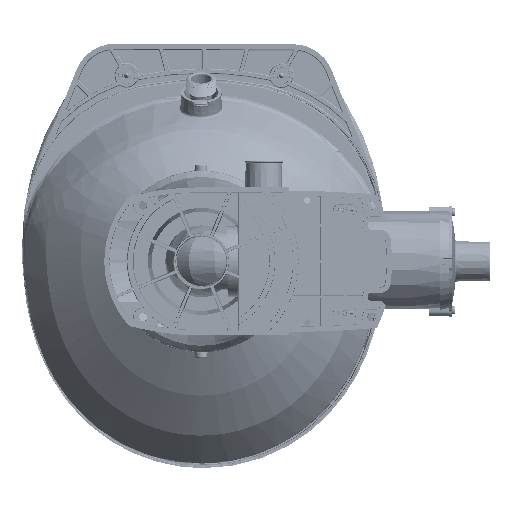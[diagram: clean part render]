
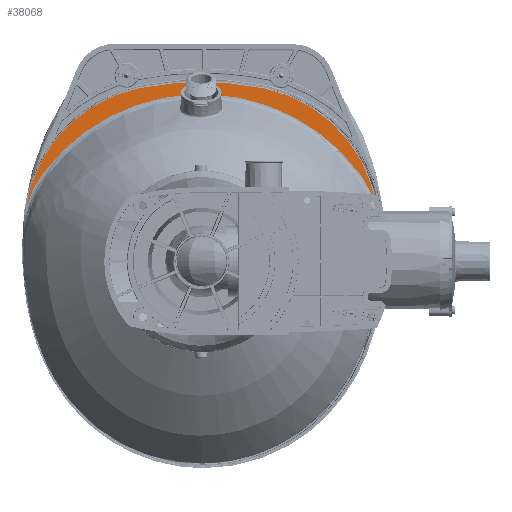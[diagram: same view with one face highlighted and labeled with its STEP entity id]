
A CAD part, front view. The second image highlights one B-rep face of the part: STEP entity #38068.
In plain terms, the highlighted planar face has unit normal (0, -1, 0).
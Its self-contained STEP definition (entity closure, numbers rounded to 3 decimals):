
#4707 = VERTEX_POINT ( 'NONE', #256327 ) ;
#8968 = VERTEX_POINT ( 'NONE', #292117 ) ;
#10498 = ORIENTED_EDGE ( 'NONE', *, *, #19481, .T. ) ;
#14408 = CARTESIAN_POINT ( 'NONE',  ( 172.247, 133.035, 53.132 ) ) ;
#19481 = EDGE_CURVE ( 'NONE', #265866, #336657, #296201, .T. ) ;
#19520 = CARTESIAN_POINT ( 'NONE',  ( 0., 133.035, -124.361 ) ) ;
#27995 = CARTESIAN_POINT ( 'NONE',  ( -160.248, 133.035, 79.634 ) ) ;
#31578 = DIRECTION ( 'NONE',  ( -1., 0., 0. ) ) ;
#33188 = CARTESIAN_POINT ( 'NONE',  ( -161.606, 133.035, 77.358 ) ) ;
#35507 = CARTESIAN_POINT ( 'NONE',  ( -155.333, 133.035, 86.855 ) ) ;
#37930 = EDGE_CURVE ( 'NONE', #200413, #265866, #278357, .T. ) ;
#38068 = ADVANCED_FACE ( 'NONE', ( #53936 ), #87503, .T. ) ;
#39200 = EDGE_CURVE ( 'NONE', #223249, #200413, #179849, .T. ) ;
#42107 = CARTESIAN_POINT ( 'NONE',  ( 157.726, 133.035, 83.559 ) ) ;
#44437 = B_SPLINE_CURVE_WITH_KNOTS ( 'NONE', 3,
 ( #153043, #395991, #90419, #333334, #211931, #362707, #33188, #303964, #27995, #179789, #271954, #123707 ),
 .UNSPECIFIED., .F., .F.,
 ( 4, 2, 2, 2, 2, 4 ),
 ( 0., 0.016, 0.024, 0.028, 0.03, 0.032 ),
 .UNSPECIFIED. ) ;
#48546 = DIRECTION ( 'NONE',  ( 0., 0., -1. ) ) ;
#53936 = FACE_OUTER_BOUND ( 'NONE', #154739, .T. ) ;
#57600 = B_SPLINE_CURVE_WITH_KNOTS ( 'NONE', 3,
 ( #336974, #154083, #129993, #35507 ),
 .UNSPECIFIED., .F., .F.,
 ( 4, 4 ),
 ( 0.035, 0.041 ),
 .UNSPECIFIED. ) ;
#59695 =( BOUNDED_CURVE ( )  B_SPLINE_CURVE ( 3, ( #380946, #163497, #376994, #136732 ),
 .UNSPECIFIED., .F., .F. ) 
 B_SPLINE_CURVE_WITH_KNOTS ( ( 4, 4 ),
 ( 2.724, 3.559 ),
 .UNSPECIFIED. ) 
 CURVE ( )  GEOMETRIC_REPRESENTATION_ITEM ( )  RATIONAL_B_SPLINE_CURVE ( ( 1., 0.943, 0.943, 1. ) ) 
 REPRESENTATION_ITEM ( '' )  );
#72737 = CARTESIAN_POINT ( 'NONE',  ( 155.336, 133.035, 86.849 ) ) ;
#75001 = VERTEX_POINT ( 'NONE', #387431 ) ;
#75936 = DIRECTION ( 'NONE',  ( 0., -1., 0. ) ) ;
#78962 = CARTESIAN_POINT ( 'NONE',  ( -172.246, 133.035, 53.138 ) ) ;
#79108 = CARTESIAN_POINT ( 'NONE',  ( 164.173, 133.035, 72.719 ) ) ;
#80675 = ORIENTED_EDGE ( 'NONE', *, *, #249075, .T. ) ;
#87503 = PLANE ( 'NONE',  #88712 ) ;
#88712 = AXIS2_PLACEMENT_3D ( 'NONE', #155362, #303651, #31578 ) ;
#90419 = CARTESIAN_POINT ( 'NONE',  ( -168.722, 133.035, 63.136 ) ) ;
#104863 = DIRECTION ( 'NONE',  ( 0., -1., 0. ) ) ;
#105369 = CARTESIAN_POINT ( 'NONE',  ( -0.001, 133.035, -29.631 ) ) ;
#109768 = CARTESIAN_POINT ( 'NONE',  ( 165.366, 133.035, 70.356 ) ) ;
#115841 = EDGE_CURVE ( 'NONE', #4707, #75001, #59695, .T. ) ;
#123192 = ORIENTED_EDGE ( 'NONE', *, *, #199923, .T. ) ;
#123707 = CARTESIAN_POINT ( 'NONE',  ( -158.84, 133.035, 81.882 ) ) ;
#124974 = AXIS2_PLACEMENT_3D ( 'NONE', #197365, #75936, #374813 ) ;
#126209 = CARTESIAN_POINT ( 'NONE',  ( 155.336, 133.035, 86.849 ) ) ;
#129993 = CARTESIAN_POINT ( 'NONE',  ( -156.556, 133.035, 85.225 ) ) ;
#134022 = CARTESIAN_POINT ( 'NONE',  ( 158.843, 133.035, 81.875 ) ) ;
#135178 = CARTESIAN_POINT ( 'NONE',  ( 172.247, 133.035, 53.132 ) ) ;
#136391 = EDGE_CURVE ( 'NONE', #336657, #194613, #274528, .T. ) ;
#136727 = DIRECTION ( 'NONE',  ( 0., -1., 0. ) ) ;
#136732 = CARTESIAN_POINT ( 'NONE',  ( 9.276, 133.035, 164.304 ) ) ;
#139102 = CARTESIAN_POINT ( 'NONE',  ( 167.582, 133.035, 65.536 ) ) ;
#140385 = CARTESIAN_POINT ( 'NONE',  ( 170.561, 133.035, 58.162 ) ) ;
#149885 = AXIS2_PLACEMENT_3D ( 'NONE', #105369, #380214, #197476 ) ;
#151427 = CIRCLE ( 'NONE', #300006, 194.158 ) ;
#153043 = CARTESIAN_POINT ( 'NONE',  ( -172.246, 133.035, 53.138 ) ) ;
#154083 = CARTESIAN_POINT ( 'NONE',  ( -157.723, 133.035, 83.566 ) ) ;
#154739 = EDGE_LOOP ( 'NONE', ( #123192, #276961, #167389, #80675, #161024, #209255, #10498, #170086, #277000, #211150 ) ) ;
#155362 = CARTESIAN_POINT ( 'NONE',  ( -0.001, 133.035, -29.631 ) ) ;
#155772 = CARTESIAN_POINT ( 'NONE',  ( 61.711, 133.035, 170.245 ) ) ;
#161024 = ORIENTED_EDGE ( 'NONE', *, *, #39200, .T. ) ;
#163497 = CARTESIAN_POINT ( 'NONE',  ( -3.28, 133.035, 169.631 ) ) ;
#167389 = ORIENTED_EDGE ( 'NONE', *, *, #181206, .T. ) ;
#168480 = CARTESIAN_POINT ( 'NONE',  ( 159.555, 133.035, 80.755 ) ) ;
#170086 = ORIENTED_EDGE ( 'NONE', *, *, #136391, .T. ) ;
#171088 = CARTESIAN_POINT ( 'NONE',  ( -0.001, 133.035, -29.631 ) ) ;
#171089 = CARTESIAN_POINT ( 'NONE',  ( 168.621, 133.035, 63.096 ) ) ;
#179789 = CARTESIAN_POINT ( 'NONE',  ( -159.552, 133.035, 80.763 ) ) ;
#179849 = B_SPLINE_CURVE_WITH_KNOTS ( 'NONE', 3,
 ( #261917, #351365, #168480, #350045, #381998, #199274, #260601, #79108, #109768, #323326, #139102, #171089, #352688, #140385, #318072, #135178 ),
 .UNSPECIFIED., .F., .F.,
 ( 4, 2, 2, 2, 2, 2, 2, 4 ),
 ( 0., 0.002, 0.004, 0.008, 0.016, 0.02, 0.024, 0.032 ),
 .UNSPECIFIED. ) ;
#180724 = CIRCLE ( 'NONE', #149885, 194.158 ) ;
#181206 = EDGE_CURVE ( 'NONE', #75001, #387922, #151427, .T. ) ;
#194613 = VERTEX_POINT ( 'NONE', #78962 ) ;
#197365 = CARTESIAN_POINT ( 'NONE',  ( -32.803, 133.035, 32.241 ) ) ;
#197476 = DIRECTION ( 'NONE',  ( 0., 0., -1. ) ) ;
#199274 = CARTESIAN_POINT ( 'NONE',  ( 161.608, 133.035, 77.351 ) ) ;
#199923 = EDGE_CURVE ( 'NONE', #8968, #4707, #180724, .T. ) ;
#200413 = VERTEX_POINT ( 'NONE', #14408 ) ;
#205839 = DIRECTION ( 'NONE',  ( 0., 1., 0. ) ) ;
#209255 = ORIENTED_EDGE ( 'NONE', *, *, #37930, .T. ) ;
#211150 = ORIENTED_EDGE ( 'NONE', *, *, #284844, .T. ) ;
#211931 = CARTESIAN_POINT ( 'NONE',  ( -164.172, 133.035, 72.722 ) ) ;
#223249 = VERTEX_POINT ( 'NONE', #273817 ) ;
#230967 = CARTESIAN_POINT ( 'NONE',  ( -61.71, 133.035, 170.246 ) ) ;
#249075 = EDGE_CURVE ( 'NONE', #387922, #223249, #272244, .T. ) ;
#256327 = CARTESIAN_POINT ( 'NONE',  ( -9.276, 133.035, 164.304 ) ) ;
#260601 = CARTESIAN_POINT ( 'NONE',  ( 162.264, 133.035, 76.201 ) ) ;
#261917 = CARTESIAN_POINT ( 'NONE',  ( 158.843, 133.035, 81.875 ) ) ;
#262171 = DIRECTION ( 'NONE',  ( 0., 0., -1. ) ) ;
#265866 = VERTEX_POINT ( 'NONE', #155772 ) ;
#271954 = CARTESIAN_POINT ( 'NONE',  ( -159.197, 133.035, 81.325 ) ) ;
#272244 = B_SPLINE_CURVE_WITH_KNOTS ( 'NONE', 3,
 ( #72737, #379526, #42107, #134022 ),
 .UNSPECIFIED., .F., .F.,
 ( 4, 4 ),
 ( 0., 0.006 ),
 .UNSPECIFIED. ) ;
#273817 = CARTESIAN_POINT ( 'NONE',  ( 158.843, 133.035, 81.875 ) ) ;
#274528 = CIRCLE ( 'NONE', #124974, 141. ) ;
#276961 = ORIENTED_EDGE ( 'NONE', *, *, #115841, .T. ) ;
#277000 = ORIENTED_EDGE ( 'NONE', *, *, #307487, .T. ) ;
#278357 = CIRCLE ( 'NONE', #329006, 141. ) ;
#279193 = AXIS2_PLACEMENT_3D ( 'NONE', #19520, #136727, #262171 ) ;
#284844 = EDGE_CURVE ( 'NONE', #335184, #8968, #57600, .T. ) ;
#292117 = CARTESIAN_POINT ( 'NONE',  ( -155.333, 133.035, 86.855 ) ) ;
#296201 = CIRCLE ( 'NONE', #279193, 301. ) ;
#300006 = AXIS2_PLACEMENT_3D ( 'NONE', #171088, #205839, #48546 ) ;
#303651 = DIRECTION ( 'NONE',  ( 0., -1., 0. ) ) ;
#303964 = CARTESIAN_POINT ( 'NONE',  ( -160.592, 133.035, 79.067 ) ) ;
#307487 = EDGE_CURVE ( 'NONE', #194613, #335184, #44437, .T. ) ;
#318072 = CARTESIAN_POINT ( 'NONE',  ( 171.443, 133.035, 55.662 ) ) ;
#318449 = DIRECTION ( 'NONE',  ( 0., 0., -1. ) ) ;
#323326 = CARTESIAN_POINT ( 'NONE',  ( 167.042, 133.035, 66.749 ) ) ;
#329006 = AXIS2_PLACEMENT_3D ( 'NONE', #347770, #104863, #318449 ) ;
#333334 = CARTESIAN_POINT ( 'NONE',  ( -165.369, 133.035, 70.354 ) ) ;
#335184 = VERTEX_POINT ( 'NONE', #377370 ) ;
#336657 = VERTEX_POINT ( 'NONE', #230967 ) ;
#336974 = CARTESIAN_POINT ( 'NONE',  ( -158.84, 133.035, 81.882 ) ) ;
#347770 = CARTESIAN_POINT ( 'NONE',  ( 32.803, 133.035, 32.241 ) ) ;
#350045 = CARTESIAN_POINT ( 'NONE',  ( 160.251, 133.035, 79.627 ) ) ;
#351365 = CARTESIAN_POINT ( 'NONE',  ( 159.2, 133.035, 81.318 ) ) ;
#352688 = CARTESIAN_POINT ( 'NONE',  ( 169.121, 133.035, 61.868 ) ) ;
#362707 = CARTESIAN_POINT ( 'NONE',  ( -162.262, 133.035, 76.207 ) ) ;
#374813 = DIRECTION ( 'NONE',  ( 0., 0., -1. ) ) ;
#376994 = CARTESIAN_POINT ( 'NONE',  ( 3.28, 133.035, 169.631 ) ) ;
#377370 = CARTESIAN_POINT ( 'NONE',  ( -158.84, 133.035, 81.882 ) ) ;
#379526 = CARTESIAN_POINT ( 'NONE',  ( 156.559, 133.035, 85.218 ) ) ;
#380214 = DIRECTION ( 'NONE',  ( 0., 1., 0. ) ) ;
#380946 = CARTESIAN_POINT ( 'NONE',  ( -9.276, 133.035, 164.304 ) ) ;
#381998 = CARTESIAN_POINT ( 'NONE',  ( 160.594, 133.035, 79.06 ) ) ;
#387431 = CARTESIAN_POINT ( 'NONE',  ( 9.276, 133.035, 164.304 ) ) ;
#387922 = VERTEX_POINT ( 'NONE', #126209 ) ;
#395991 = CARTESIAN_POINT ( 'NONE',  ( -170.637, 133.035, 58.197 ) ) ;
